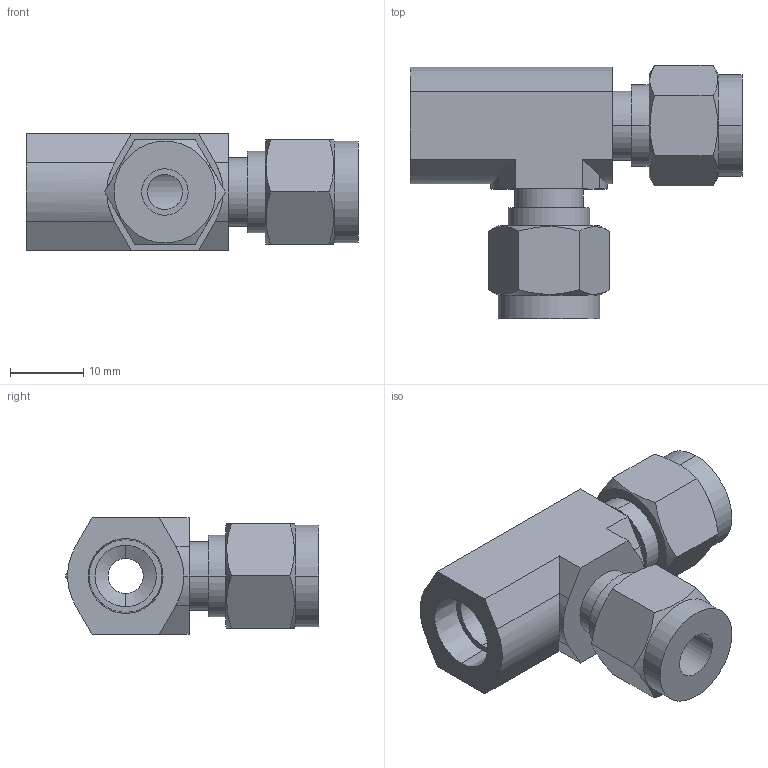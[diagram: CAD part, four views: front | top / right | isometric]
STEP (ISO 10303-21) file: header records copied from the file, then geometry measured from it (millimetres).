
FILE_DESCRIPTION (( 'STEP AP203' ), '1' );
FILE_NAME ('DTF 04-02 SS.STEP', '2009-09-08T09:44:29', ( ' ' ), ( '' ), 'SwSTEP 2.0', 'SolidWorks 2008', '' );
FILE_SCHEMA (( 'CONFIG_CONTROL_DESIGN' ));
Length unit declared in the file: millimetre
Products named in the file (1): DTF 04-02 SS
Bounding box: 45.4 x 34.65 x 15.9 mm (x, y, z)
Volume: 8802.3 mm3; surface area: 5314.7 mm2
Topology: 1 solids, 1 shells, 76 faces, 185 edges, 120 vertices
Faces by surface type: plane 36, cylinder 28, cone 12
Entity records: 2563 total; most frequent: CARTESIAN_POINT 709, ORIENTED_EDGE 370, DIRECTION 361, EDGE_CURVE 185, AXIS2_PLACEMENT_3D 136, VERTEX_POINT 120, EDGE_LOOP 89, VECTOR 89
